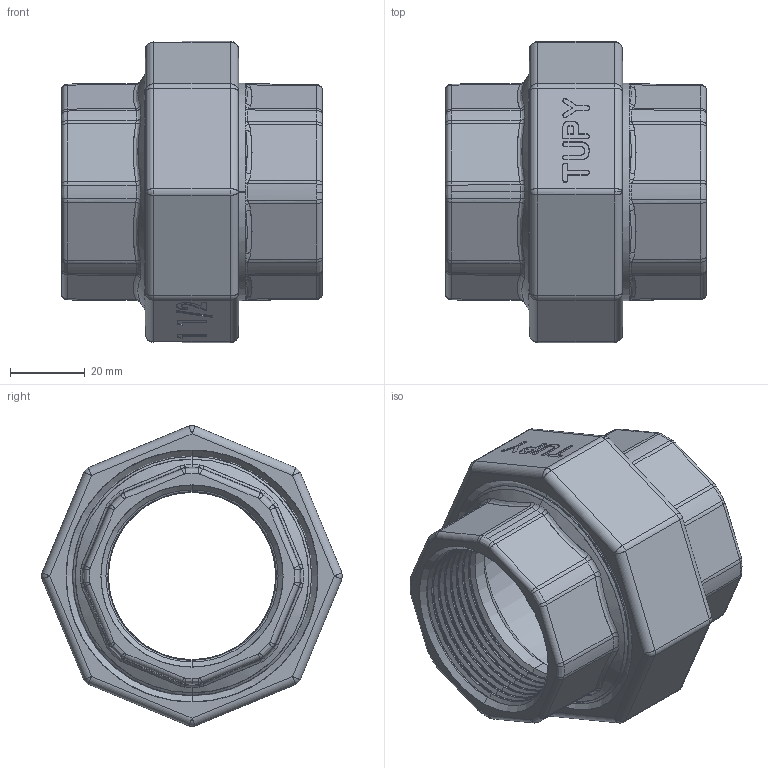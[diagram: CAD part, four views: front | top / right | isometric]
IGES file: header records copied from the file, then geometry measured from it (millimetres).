
Start section: SolidWorks IGES file using analytic representation for surfaces
Global section: file name: C:\Users\Joel Rosa\Desktop\Tubulação\12-63-X\12-63-009.IGS; native system: SolidWorks 2011; preprocessor: SolidWorks 2011; author: Joel Rosa; date: 130721.143103; units: millimetre
Bounding box: 70 x 80.8 x 80.81 mm (x, y, z)
Surface area: 51593.4 mm2 (no closed solid volume)
Topology: 0 solids, 0 shells, 686 faces, 5038 edges, 5032 vertices
Faces by surface type: bspline 459, revolution 227
